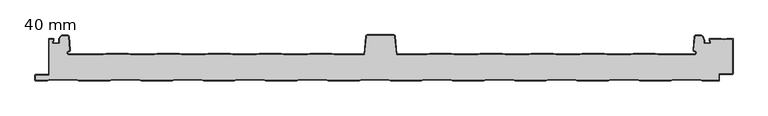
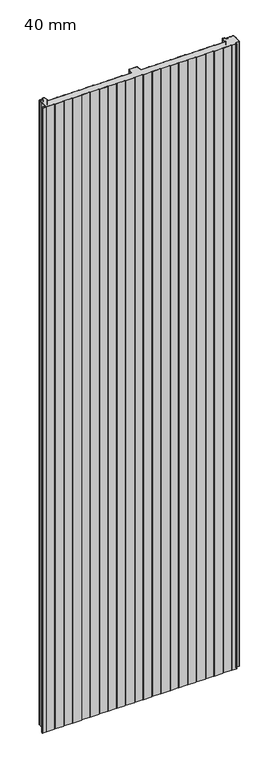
"""IFC4 building model written with IfcOpenShell, lengths in millimetres: plate geometry, HIANSA PANEL - H20.F01.002-PANELES DE CUBIERTA CON TAPAJUNTA - CUB 3GR - Panel de Muro Cortina : 40 mm."""

from ifc_helpers import new_model, si_unit, point, frame_2d, origin, origin_with_axes, place, context, project, spatial, polyline, circle_curve, trimmed, segment, composite_curve, outline, extrude, source, transform, mapped, element, save


def plate_40_mm_992aaad9(model_context):
    return source(origin(), model_context, "Body", "SweptSolid", [
        extrude(outline(polyline([(512.4711611, 40.1920969), (512.9884902, 39.425125), (512.9884902, 16.25), (512.4689349, 15.5079982), (512.4711611, 40.1920969)])), origin_with_axes(), (0.0, 0.0, 1.0), 3390.8509027),
        extrude(outline(polyline([(-486.0046625, 15.4267187), (-486.4799842, 16.25), (-486.4799842, 39.4251524), (-486.0046625, 40.2484337), (-486.0046625, 15.4267187)])), origin_with_axes(), (0.0, 0.0, 1.0), 3390.8509027),
        extrude(outline(composite_curve([segment(trimmed(circle_curve(frame_2d((-486.9813922, 9.7640482)), 0.998858), [point((-485.9825353, 9.7655207))], [point((-486.9813922, 8.7651902))], False, "CARTESIAN"), True, "CONTINUOUS"), segment(polyline([(-486.9813922, 8.7651902), (-505.4768583, 8.7651905)]), True, "CONTINUOUS"), segment(trimmed(circle_curve(frame_2d((-505.4798404, 8.2649415)), 0.5002578), [point((-505.4768583, 8.7651905))], [point((-505.9800982, 8.2649415))], True, "CARTESIAN"), True, "CONTINUOUS"), segment(polyline([(-505.9800982, 8.2649415), (-505.9800982, 1.0000206)]), True, "CONTINUOUS"), segment(trimmed(circle_curve(frame_2d((-505.4800365, 1.0000206)), 0.5000618), [point((-505.9800982, 1.0000206))], [point((-505.4800365, 0.4999588))], True, "CARTESIAN"), True, "CONTINUOUS"), segment(polyline([(-505.4800365, 0.4999588), (-488.3212473, 0.4999588), (-485.3211238, 1.5), (-445.1588462, 1.5), (-442.1588462, 0.5), (-397.3211238, 0.5), (-394.3211238, 1.5), (-354.1588462, 1.5), (-351.1588462, 0.5), (-306.3211238, 0.5), (-303.3211238, 1.5), (-263.1588462, 1.5), (-260.1588462, 0.5), (-215.3211238, 0.5), (-212.3211238, 1.5), (-172.1588462, 1.5), (-169.1588462, 0.5), (-124.3211238, 0.5), (-121.3211238, 1.5), (-81.1588462, 1.5), (-78.1588462, 0.5), (-33.3211238, 0.5), (-30.3211238, 1.5), (9.8411538, 1.5), (12.8411538, 0.5), (57.6788762, 0.5), (60.6788762, 1.5), (100.8411538, 1.5), (103.8411538, 0.5), (148.6788762, 0.5), (151.6788762, 1.5), (191.8411538, 1.5), (194.8411538, 0.5), (239.6788762, 0.5), (242.6788762, 1.5), (282.8411538, 1.5), (285.8411538, 0.5), (330.6788762, 0.5), (333.6788762, 1.5), (373.8411538, 1.5), (376.8411538, 0.5), (421.6788762, 0.5), (424.6788762, 1.5), (464.8411538, 1.5), (467.8411538, 0.5), (491.98849, 0.5)]), True, "CONTINUOUS"), segment(trimmed(circle_curve(frame_2d((491.98849, 1.0)), 0.5), [point((491.98849, 0.5))], [point((492.48849, 1.0))], True, "CARTESIAN"), True, "CONTINUOUS"), segment(polyline([(492.48849, 1.0), (492.48849, 9.1271447)]), True, "CONTINUOUS"), segment(trimmed(circle_curve(frame_2d((493.48849, 9.1271447)), 1.0), [point((492.48849, 9.1271447))], [point((493.48849, 10.1271447))], False, "CARTESIAN"), True, "CONTINUOUS"), segment(polyline([(493.48849, 10.1271447), (511.9854349, 10.1271447)]), True, "CONTINUOUS"), segment(trimmed(circle_curve(frame_2d((511.98849, 10.6271354)), 0.5), [point((511.9854349, 10.1271447))], [point((512.48849, 10.6271354))], True, "CARTESIAN"), True, "CONTINUOUS"), segment(polyline([(512.48849, 10.6271354), (512.48849, 15.535926), (512.98849, 16.25), (512.98849, 10.6271354)]), True, "CONTINUOUS"), segment(trimmed(circle_curve(frame_2d((511.98849, 10.6271354)), 1.0), [point((512.98849, 10.6271354))], [point((511.98849, 9.6271354))], False, "CARTESIAN"), True, "CONTINUOUS"), segment(polyline([(511.98849, 9.6271354), (493.4915451, 9.6271354)]), True, "CONTINUOUS"), segment(trimmed(circle_curve(frame_2d((493.48849, 9.1271447)), 0.5), [point((493.4915451, 9.6271354))], [point((492.98849, 9.1271447))], True, "CARTESIAN"), True, "CONTINUOUS"), segment(polyline([(492.98849, 9.1271447), (492.98849, 1.0)]), True, "CONTINUOUS"), segment(trimmed(circle_curve(frame_2d((491.98849, 1.0)), 1.0), [point((492.98849, 1.0))], [point((491.98849, 0.0))], False, "CARTESIAN"), True, "CONTINUOUS"), segment(polyline([(491.98849, 0.0), (467.760015, 0.0), (464.760015, 1.0), (424.760015, 1.0), (421.760015, 0.0), (376.760015, 0.0), (373.760015, 1.0), (333.760015, 1.0), (330.760015, 0.0), (285.760015, 0.0), (282.760015, 1.0), (242.760015, 1.0), (239.760015, 0.0), (194.760015, 0.0), (191.760015, 1.0), (151.760015, 1.0), (148.760015, 0.0), (103.760015, 0.0), (100.760015, 1.0), (60.760015, 1.0), (57.760015, 0.0), (12.760015, 0.0), (9.760015, 1.0), (-30.239985, 1.0), (-33.239985, 0.0), (-78.239985, 0.0), (-81.239985, 1.0), (-121.239985, 1.0), (-124.239985, 0.0), (-169.239985, 0.0), (-172.239985, 1.0), (-212.239985, 1.0), (-215.239985, 0.0), (-260.239985, 0.0), (-263.239985, 1.0), (-303.239985, 1.0), (-306.239985, 0.0), (-351.239985, 0.0), (-354.239985, 1.0), (-394.239985, 1.0), (-397.239985, 0.0), (-442.239985, 0.0), (-445.239985, 1.0), (-485.239985, 1.0), (-488.239985, 0.0), (-505.479985, 0.0)]), True, "CONTINUOUS"), segment(trimmed(circle_curve(frame_2d((-505.479985, 1.0)), 1.0), [point((-505.479985, 0.0))], [point((-506.479985, 1.0))], False, "CARTESIAN"), True, "CONTINUOUS"), segment(polyline([(-506.479985, 1.0), (-506.479985, 8.262651)]), True, "CONTINUOUS"), segment(trimmed(circle_curve(frame_2d((-505.479985, 8.262651)), 1.0), [point((-506.479985, 8.262651))], [point((-505.479985, 9.262651))], False, "CARTESIAN"), True, "CONTINUOUS"), segment(polyline([(-505.479985, 9.262651), (-486.9830395, 9.262651)]), True, "CONTINUOUS"), segment(trimmed(circle_curve(frame_2d((-486.9799843, 9.7626416)), 0.5), [point((-486.9830395, 9.262651))], [point((-486.4799843, 9.7626416))], True, "CARTESIAN"), True, "CONTINUOUS"), segment(polyline([(-486.4799843, 9.7626416), (-486.4799843, 16.25), (-485.9825353, 15.388393), (-485.9825353, 9.7655207)]), True, "CONTINUOUS")], self_intersect=False)), origin_with_axes(), (0.0, 0.0, 1.0), 3390.8509027),
        extrude(outline(composite_curve([segment(polyline([(-480.1607345, 55.8366875), (-480.1607345, 57.1797549), (-479.1700595, 59.1432549), (-479.1700595, 61.48175), (-485.9846475, 61.48175), (-485.9846475, 40.283101), (-486.4800002, 39.425125), (-486.4800002, 61.2318073)]), True, "CONTINUOUS"), segment(trimmed(circle_curve(frame_2d((-485.7368552, 61.2318073)), 0.743145), [point((-486.4800002, 61.2318073))], [point((-485.7922599, 61.972884))], False, "CARTESIAN"), True, "CONTINUOUS"), segment(polyline([(-485.7922599, 61.972884), (-479.4177693, 61.972884)]), True, "CONTINUOUS"), segment(trimmed(circle_curve(frame_2d((-479.4177693, 61.2297247)), 0.7431593), [point((-479.4177693, 61.972884))], [point((-478.6746398, 61.2363816))], False, "CARTESIAN"), True, "CONTINUOUS"), segment(polyline([(-478.6746398, 61.2363816), (-478.6746398, 59.0275379), (-479.665397, 57.063875), (-479.665397, 55.59125), (-471.61986, 55.59125), (-471.61986, 61.9404769), (-469.4341541, 64.7321629)]), True, "CONTINUOUS"), segment(trimmed(circle_curve(frame_2d((-464.3237111, 61.5831348)), 6.0027498), [point((-469.4341541, 64.7321629))], [point((-466.9668911, 66.972625))], False, "CARTESIAN"), True, "CONTINUOUS"), segment(polyline([(-466.9668911, 66.972625), (-459.1529508, 66.972625)]), True, "CONTINUOUS"), segment(trimmed(circle_curve(frame_2d((-459.1529508, 64.4937014)), 2.4789236), [point((-459.1529508, 66.972625))], [point((-456.687521, 64.752))], False, "CARTESIAN"), True, "CONTINUOUS"), segment(polyline([(-456.687521, 64.752), (-454.7873912, 45.068375)]), True, "CONTINUOUS"), segment(trimmed(circle_curve(frame_2d((-456.7403792, 44.8798462)), 1.9620666), [point((-454.7873912, 45.068375))], [point((-456.759735, 42.917875))], False, "CARTESIAN"), True, "CONTINUOUS"), segment(trimmed(circle_curve(frame_2d((-456.7790608, 40.9589375)), 1.9590328), [point((-456.759735, 42.917875))], [point((-456.759735, 39.0))], True, "CARTESIAN"), True, "CONTINUOUS"), segment(polyline([(-456.759735, 39.0), (-406.739985, 39.0), (-402.489985, 40.0), (-370.429985, 40.0), (-366.179985, 39.0), (-332.299985, 39.0), (-328.049985, 40.0), (-295.989985, 40.0), (-291.739985, 39.0), (-257.859985, 39.0), (-253.609985, 40.0), (-221.549985, 40.0), (-217.299985, 39.0), (-183.419985, 39.0), (-179.169985, 40.0), (-147.109985, 40.0), (-142.859985, 39.0), (-108.979985, 39.0), (-104.729985, 40.0), (-73.3895534, 40.0), (-69.1395534, 39.0), (-25.6851838, 39.0), (-23.3914157, 65.2178894)]), True, "CONTINUOUS"), segment(trimmed(circle_curve(frame_2d((-20.9009289, 65.0)), 2.5), [point((-23.3914157, 65.2178894))], [point((-20.9009289, 67.5))], False, "CARTESIAN"), True, "CONTINUOUS"), segment(polyline([(-20.9009289, 67.5), (17.2651042, 67.5)]), True, "CONTINUOUS"), segment(trimmed(circle_curve(frame_2d((17.2651042, 65.0000821)), 2.4999179), [point((17.2651042, 67.5))], [point((19.7555174, 65.2178706))], False, "CARTESIAN"), True, "CONTINUOUS"), segment(polyline([(19.7555174, 65.2178706), (22.0482906, 39.0), (65.9474446, 39.0), (70.1974446, 40.0), (101.7703756, 40.0), (106.0203756, 39.0), (139.9003756, 39.0), (144.1503756, 40.0), (176.2103756, 40.0), (180.4603756, 39.0), (214.3403756, 39.0), (218.5903756, 40.0), (250.6503756, 40.0), (254.9003756, 39.0), (288.7803756, 39.0), (293.0303756, 40.0), (325.0903756, 40.0), (329.3403756, 39.0), (363.2203756, 39.0), (367.4703756, 40.0), (399.5303756, 40.0), (403.7803756, 39.0), (456.5203756, 39.0)]), True, "CONTINUOUS"), segment(trimmed(circle_curve(frame_2d((456.542308, 40.9589395)), 1.9590623), [point((456.5203756, 39.0))], [point((456.520015, 42.917875))], True, "CARTESIAN"), True, "CONTINUOUS"), segment(trimmed(circle_curve(frame_2d((456.5006593, 44.8798462)), 1.9620666), [point((456.520015, 42.917875))], [point((454.5476712, 45.068375))], False, "CARTESIAN"), True, "CONTINUOUS"), segment(polyline([(454.5476712, 45.068375), (456.4478011, 64.752)]), True, "CONTINUOUS"), segment(trimmed(circle_curve(frame_2d((458.9132308, 64.4937014)), 2.4789236), [point((456.4478011, 64.752))], [point((458.9132308, 66.972625))], False, "CARTESIAN"), True, "CONTINUOUS"), segment(polyline([(458.9132308, 66.972625), (466.7271712, 66.972625)]), True, "CONTINUOUS"), segment(trimmed(circle_curve(frame_2d((464.0839912, 61.5831348)), 6.0027498), [point((466.7271712, 66.972625))], [point((469.1944341, 64.7321629))], False, "CARTESIAN"), True, "CONTINUOUS"), segment(polyline([(469.1944341, 64.7321629), (471.38014, 58.8899572), (471.38014, 55.592625), (479.185403, 55.592625), (479.185403, 57.06525), (478.194728, 59.02875), (478.194728, 61.2363125)]), True, "CONTINUOUS"), segment(trimmed(circle_curve(frame_2d((478.9377343, 61.2295883)), 0.7430367), [point((478.194728, 61.2363125))], [point((478.9377343, 61.972625))], False, "CARTESIAN"), True, "CONTINUOUS"), segment(polyline([(478.9377343, 61.972625), (495.5315405, 61.972625), (499.4942405, 60.990875), (503.4569405, 61.972625), (512.3449935, 61.972625)]), True, "CONTINUOUS"), segment(trimmed(circle_curve(frame_2d((512.2454838, 61.2363125)), 0.7430063), [point((512.3449935, 61.972625))], [point((512.98849, 61.2363125))], False, "CARTESIAN"), True, "CONTINUOUS"), segment(polyline([(512.98849, 61.2363125), (512.98849, 39.425125), (512.4931525, 40.159493), (512.4931525, 61.48175), (503.5179194, 61.48175), (499.4942405, 60.4848926), (495.4705617, 61.48175), (478.6900655, 61.48175), (478.6900655, 59.1446299), (479.6807405, 57.1811299), (479.6807405, 55.8380625)]), True, "CONTINUOUS"), segment(trimmed(circle_curve(frame_2d((478.9377343, 55.8447867)), 0.7430367), [point((479.6807405, 55.8380625))], [point((478.9377343, 55.10175))], False, "CARTESIAN"), True, "CONTINUOUS"), segment(polyline([(478.9377343, 55.10175), (471.6278088, 55.10175)]), True, "CONTINUOUS"), segment(trimmed(circle_curve(frame_2d((471.6211452, 55.8380625)), 0.7363427), [point((471.6278088, 55.10175))], [point((470.8848025, 55.8380625))], False, "CARTESIAN"), True, "CONTINUOUS"), segment(polyline([(470.8848025, 55.8380625), (470.8848025, 58.8899572), (468.7009815, 64.6893803)]), True, "CONTINUOUS"), segment(trimmed(circle_curve(frame_2d((464.100425, 61.6061058)), 5.5382039), [point((468.7009815, 64.6893803))], [point((466.7271712, 66.48175))], True, "CARTESIAN"), True, "CONTINUOUS"), segment(polyline([(466.7271712, 66.48175), (458.9132308, 66.48175)]), True, "CONTINUOUS"), segment(trimmed(circle_curve(frame_2d((458.8972089, 64.5163993)), 1.965416), [point((458.9132308, 66.48175))], [point((456.940887, 64.70525))], True, "CARTESIAN"), True, "CONTINUOUS"), segment(polyline([(456.940887, 64.70525), (455.0407572, 45.021625)]), True, "CONTINUOUS"), segment(trimmed(circle_curve(frame_2d((456.5066883, 44.8813199)), 1.4726302), [point((455.0407572, 45.021625))], [point((456.520015, 43.40875))], True, "CARTESIAN"), True, "CONTINUOUS"), segment(trimmed(circle_curve(frame_2d((456.542227, 40.954375)), 2.4544755), [point((456.520015, 43.40875))], [point((456.520015, 38.5))], False, "CARTESIAN"), True, "CONTINUOUS"), segment(polyline([(456.520015, 38.5), (403.7219839, 38.5), (399.4719839, 39.5), (367.5280462, 39.5), (363.2780462, 38.5), (329.2819839, 38.5), (325.0319839, 39.5), (293.0880462, 39.5), (288.8380462, 38.5), (254.8419839, 38.5), (250.5919839, 39.5), (218.6480462, 39.5), (214.3980462, 38.5), (180.4019839, 38.5), (176.1519839, 39.5), (144.2080462, 39.5), (139.9580462, 38.5), (105.9619839, 38.5), (101.7119839, 39.5), (70.2558363, 39.5), (66.0058363, 38.5), (21.5901077, 38.5), (19.2574184, 65.1743115)]), True, "CONTINUOUS"), segment(trimmed(circle_curve(frame_2d((17.2651042, 65.0000821)), 1.9999179), [point((19.2574184, 65.1743115))], [point((17.2651042, 67.0))], True, "CARTESIAN"), True, "CONTINUOUS"), segment(polyline([(17.2651042, 67.0), (-20.9009289, 67.0)]), True, "CONTINUOUS"), segment(trimmed(circle_curve(frame_2d((-20.9009289, 65.0)), 2.0), [point((-20.9009289, 67.0))], [point((-22.8933183, 65.1743115))], True, "CARTESIAN"), True, "CONTINUOUS"), segment(polyline([(-22.8933183, 65.1743115), (-25.2270182, 38.5), (-69.1979451, 38.5), (-73.4479451, 39.5), (-104.6719538, 39.5), (-108.9219538, 38.5), (-142.9180161, 38.5), (-147.1680161, 39.5), (-179.1119538, 39.5), (-183.3619538, 38.5), (-217.3580161, 38.5), (-221.6080161, 39.5), (-253.5519538, 39.5), (-257.8019538, 38.5), (-291.7980161, 38.5), (-296.0480161, 39.5), (-327.9919538, 39.5), (-332.2419538, 38.5), (-366.2380161, 38.5), (-370.4880161, 39.5), (-402.4319538, 39.5), (-406.6819538, 38.5), (-456.759735, 38.5)]), True, "CONTINUOUS"), segment(trimmed(circle_curve(frame_2d((-456.781947, 40.954375)), 2.4544755), [point((-456.759735, 38.5))], [point((-456.759735, 43.40875))], False, "CARTESIAN"), True, "CONTINUOUS"), segment(trimmed(circle_curve(frame_2d((-456.7464083, 44.8813199)), 1.4726302), [point((-456.759735, 43.40875))], [point((-455.2804771, 45.021625))], True, "CARTESIAN"), True, "CONTINUOUS"), segment(polyline([(-455.2804771, 45.021625), (-457.180607, 64.70525)]), True, "CONTINUOUS"), segment(trimmed(circle_curve(frame_2d((-459.1369289, 64.5163993)), 1.965416), [point((-457.180607, 64.70525))], [point((-459.1529508, 66.48175))], True, "CARTESIAN"), True, "CONTINUOUS"), segment(polyline([(-459.1529508, 66.48175), (-466.9668911, 66.48175)]), True, "CONTINUOUS"), segment(trimmed(circle_curve(frame_2d((-464.340145, 61.6061058)), 5.5382039), [point((-466.9668911, 66.48175))], [point((-468.9407015, 64.6893803))], True, "CARTESIAN"), True, "CONTINUOUS"), segment(polyline([(-468.9407015, 64.6893803), (-471.1245225, 61.9404769), (-471.1245225, 55.8366875)]), True, "CONTINUOUS"), segment(trimmed(circle_curve(frame_2d((-471.8608651, 55.8366875)), 0.7363427), [point((-471.1245225, 55.8366875))], [point((-471.8675287, 55.100375))], False, "CARTESIAN"), True, "CONTINUOUS"), segment(polyline([(-471.8675287, 55.100375), (-479.4177282, 55.100375)]), True, "CONTINUOUS"), segment(trimmed(circle_curve(frame_2d((-479.4177282, 55.8434117)), 0.7430367), [point((-479.4177282, 55.100375))], [point((-480.1607345, 55.8366875))], False, "CARTESIAN"), True, "CONTINUOUS")], self_intersect=False)), origin_with_axes(), (0.0, 0.0, 1.0), 3390.8509027),
        extrude(outline(composite_curve([segment(trimmed(circle_curve(frame_2d((-479.4377434, 55.8434117)), 0.7430367), [point((-480.1807496, 55.8366875))], [point((-479.4377434, 55.100375))], True, "CARTESIAN"), True, "CONTINUOUS"), segment(polyline([(-479.4377434, 55.100375), (-471.8875439, 55.100375)]), True, "CONTINUOUS"), segment(trimmed(circle_curve(frame_2d((-471.8808803, 55.8366875)), 0.7363427), [point((-471.8875439, 55.100375))], [point((-471.1445377, 55.8366875))], True, "CARTESIAN"), True, "CONTINUOUS"), segment(polyline([(-471.1445377, 55.8366875), (-471.1445377, 61.9404769), (-468.9607167, 64.6893803)]), True, "CONTINUOUS"), segment(trimmed(circle_curve(frame_2d((-464.3601602, 61.6061058)), 5.5382039), [point((-468.9607167, 64.6893803))], [point((-466.9869063, 66.48175))], False, "CARTESIAN"), True, "CONTINUOUS"), segment(polyline([(-466.9869063, 66.48175), (-459.172966, 66.48175)]), True, "CONTINUOUS"), segment(trimmed(circle_curve(frame_2d((-459.156944, 64.5163993)), 1.965416), [point((-459.172966, 66.48175))], [point((-457.2006221, 64.70525))], False, "CARTESIAN"), True, "CONTINUOUS"), segment(polyline([(-457.2006221, 64.70525), (-455.3004923, 45.021625)]), True, "CONTINUOUS"), segment(trimmed(circle_curve(frame_2d((-456.7664235, 44.8813199)), 1.4726302), [point((-455.3004923, 45.021625))], [point((-456.7797502, 43.40875))], False, "CARTESIAN"), True, "CONTINUOUS"), segment(trimmed(circle_curve(frame_2d((-456.8019621, 40.954375)), 2.4544755), [point((-456.7797502, 43.40875))], [point((-456.7797502, 38.5))], True, "CARTESIAN"), True, "CONTINUOUS"), segment(polyline([(-456.7797502, 38.5), (-406.701969, 38.5), (-402.451969, 39.5), (-370.5080313, 39.5), (-366.2580313, 38.5), (-332.261969, 38.5), (-328.011969, 39.5), (-296.0680313, 39.5), (-291.8180313, 38.5), (-257.821969, 38.5), (-253.571969, 39.5), (-221.6280313, 39.5), (-217.3780313, 38.5), (-183.381969, 38.5), (-179.131969, 39.5), (-147.1880313, 39.5), (-142.9380313, 38.5), (-108.941969, 38.5), (-104.691969, 39.5), (-73.4679603, 39.5), (-69.2179603, 38.5), (-25.2470334, 38.5), (-22.9133335, 65.1743115)]), True, "CONTINUOUS"), segment(trimmed(circle_curve(frame_2d((-20.9209441, 65.0)), 2.0), [point((-22.9133335, 65.1743115))], [point((-20.9209441, 67.0))], False, "CARTESIAN"), True, "CONTINUOUS"), segment(polyline([(-20.9209441, 67.0), (17.245089, 67.0)]), True, "CONTINUOUS"), segment(trimmed(circle_curve(frame_2d((17.245089, 65.0000821)), 1.9999179), [point((17.245089, 67.0))], [point((19.2374032, 65.1743115))], False, "CARTESIAN"), True, "CONTINUOUS"), segment(polyline([(19.2374032, 65.1743115), (21.5700925, 38.5), (65.9858211, 38.5), (70.2358211, 39.5), (101.6919687, 39.5), (105.9419687, 38.5), (139.938031, 38.5), (144.188031, 39.5), (176.1319687, 39.5), (180.3819687, 38.5), (214.378031, 38.5), (218.628031, 39.5), (250.5719687, 39.5), (254.8219687, 38.5), (288.818031, 38.5), (293.068031, 39.5), (325.0119687, 39.5), (329.2619687, 38.5), (363.258031, 38.5), (367.508031, 39.5), (399.4519687, 39.5), (403.7019687, 38.5), (456.4999998, 38.5)]), True, "CONTINUOUS"), segment(trimmed(circle_curve(frame_2d((456.5222118, 40.954375)), 2.4544755), [point((456.4999998, 38.5))], [point((456.4999998, 43.40875))], True, "CARTESIAN"), True, "CONTINUOUS"), segment(trimmed(circle_curve(frame_2d((456.4866732, 44.8813199)), 1.4726302), [point((456.4999998, 43.40875))], [point((455.020742, 45.021625))], False, "CARTESIAN"), True, "CONTINUOUS"), segment(polyline([(455.020742, 45.021625), (456.9208718, 64.70525)]), True, "CONTINUOUS"), segment(trimmed(circle_curve(frame_2d((458.8771937, 64.5163993)), 1.965416), [point((456.9208718, 64.70525))], [point((458.8932157, 66.48175))], False, "CARTESIAN"), True, "CONTINUOUS"), segment(polyline([(458.8932157, 66.48175), (466.707156, 66.48175)]), True, "CONTINUOUS"), segment(trimmed(circle_curve(frame_2d((464.0804099, 61.6061058)), 5.5382039), [point((466.707156, 66.48175))], [point((468.6809664, 64.6893803))], False, "CARTESIAN"), True, "CONTINUOUS"), segment(polyline([(468.6809664, 64.6893803), (470.8647873, 58.8899572), (470.8647873, 55.8380625)]), True, "CONTINUOUS"), segment(trimmed(circle_curve(frame_2d((471.60113, 55.8380625)), 0.7363427), [point((470.8647873, 55.8380625))], [point((471.6077936, 55.10175))], True, "CARTESIAN"), True, "CONTINUOUS"), segment(polyline([(471.6077936, 55.10175), (478.9177191, 55.10175)]), True, "CONTINUOUS"), segment(trimmed(circle_curve(frame_2d((478.9177191, 55.8447867)), 0.7430367), [point((478.9177191, 55.10175))], [point((479.6607254, 55.8380625))], True, "CARTESIAN"), True, "CONTINUOUS"), segment(polyline([(479.6607254, 55.8380625), (479.6607254, 57.1811299), (478.6700504, 59.1446299), (478.6700504, 61.48175), (495.4505465, 61.48175), (499.4742254, 60.4848926), (503.4979042, 61.48175), (512.473081, 61.48175), (512.4684748, 10.6270942)]), True, "CONTINUOUS"), segment(trimmed(circle_curve(frame_2d((511.9684748, 10.6270942)), 0.5), [point((512.4684748, 10.6270942))], [point((511.9654197, 10.1271035))], False, "CARTESIAN"), True, "CONTINUOUS"), segment(polyline([(511.9654197, 10.1271035), (493.4684748, 10.1271035)]), True, "CONTINUOUS"), segment(trimmed(circle_curve(frame_2d((493.4684748, 9.1271035)), 1.0), [point((493.4684748, 10.1271035))], [point((492.4684748, 9.1271035))], True, "CARTESIAN"), True, "CONTINUOUS"), segment(polyline([(492.4684748, 9.1271035), (492.4684748, 0.9999588)]), True, "CONTINUOUS"), segment(trimmed(circle_curve(frame_2d((491.9684748, 0.9999588)), 0.5), [point((492.4684748, 0.9999588))], [point((491.9684748, 0.4999588))], False, "CARTESIAN"), True, "CONTINUOUS"), segment(polyline([(491.9684748, 0.4999588), (467.8211387, 0.4999588), (464.8211387, 1.4999588), (424.658861, 1.4999588), (421.658861, 0.4999588), (376.8211387, 0.4999588), (373.8211387, 1.4999588), (333.658861, 1.4999588), (330.658861, 0.4999588), (285.8211387, 0.4999588), (282.8211387, 1.4999588), (242.658861, 1.4999588), (239.658861, 0.4999588), (194.8211387, 0.4999588), (191.8211387, 1.4999588), (151.658861, 1.4999588), (148.658861, 0.4999588), (103.8211387, 0.4999588), (100.8211387, 1.4999588), (60.658861, 1.4999588), (57.658861, 0.4999588), (12.8211387, 0.4999588), (9.8211387, 1.4999588), (-30.341139, 1.4999588), (-33.341139, 0.4999588), (-78.1788613, 0.4999588), (-81.1788613, 1.4999588), (-121.341139, 1.4999588), (-124.341139, 0.4999588), (-169.1788613, 0.4999588), (-172.1788613, 1.4999588), (-212.341139, 1.4999588), (-215.341139, 0.4999588), (-260.1788613, 0.4999588), (-263.1788613, 1.4999588), (-303.341139, 1.4999588), (-306.341139, 0.4999588), (-351.1788613, 0.4999588), (-354.1788613, 1.4999588), (-394.341139, 1.4999588), (-397.341139, 0.4999588), (-442.1788613, 0.4999588), (-445.1789848, 1.5), (-485.341139, 1.5), (-488.3412625, 0.4999588), (-505.5000516, 0.4999588)]), True, "CONTINUOUS"), segment(trimmed(circle_curve(frame_2d((-505.5000516, 1.0000206)), 0.5000618), [point((-505.5000516, 0.4999588))], [point((-506.0001134, 1.0000206))], False, "CARTESIAN"), True, "CONTINUOUS"), segment(polyline([(-506.0001134, 1.0000206), (-506.0001134, 8.2649415)]), True, "CONTINUOUS"), segment(trimmed(circle_curve(frame_2d((-505.4998556, 8.2649415)), 0.5002578), [point((-506.0001134, 8.2649415))], [point((-505.4968734, 8.7651905))], False, "CARTESIAN"), True, "CONTINUOUS"), segment(polyline([(-505.4968734, 8.7651905), (-487.0014074, 8.7651905)]), True, "CONTINUOUS"), segment(trimmed(circle_curve(frame_2d((-487.0014074, 9.7640482)), 0.9988578), [point((-487.0014074, 8.7651905))], [point((-486.0046627, 9.8289851))], True, "CARTESIAN"), True, "CONTINUOUS"), segment(polyline([(-486.0046627, 9.8289851), (-486.0046627, 61.48175), (-479.1900746, 61.48175), (-479.1900746, 59.1432549), (-480.1807496, 57.1797549), (-480.1807496, 55.8366875)]), True, "CONTINUOUS")], self_intersect=False)), origin_with_axes(), (0.0, 0.0, 1.0), 3390.8509027),
    ])


if __name__ == "__main__":
    model = new_model("IFC4")
    model_context = context("Model", 3, world=origin())
    ifc_project = project(units=[si_unit("LENGTHUNIT", "METRE", prefix="MILLI")], contexts=[model_context])
    site = spatial("IfcSite", under=ifc_project)
    building = spatial("IfcBuilding", under=site)
    placement = place(None, origin())
    plate_40_mm_shape = plate_40_mm_992aaad9(model_context)
    element("IfcPlate", 1, ObjectType="HIANSA PANEL - H20.F01.002-PANELES DE CUBIERTA CON TAPAJUNTA - CUB 3GR - Panel de Muro Cortina : 40 mm", at=placement, inside=building, context=model_context, shape_type="MappedRepresentation", body=[
        mapped(plate_40_mm_shape, transform((0.0, 0.0, 0.0), x_axis=(1.0, 0.0, 0.0), y_axis=(0.0, 1.0, 0.0), z_axis=(0.0, 0.0, 1.0))),
    ])
    save(model, "model.ifc")
